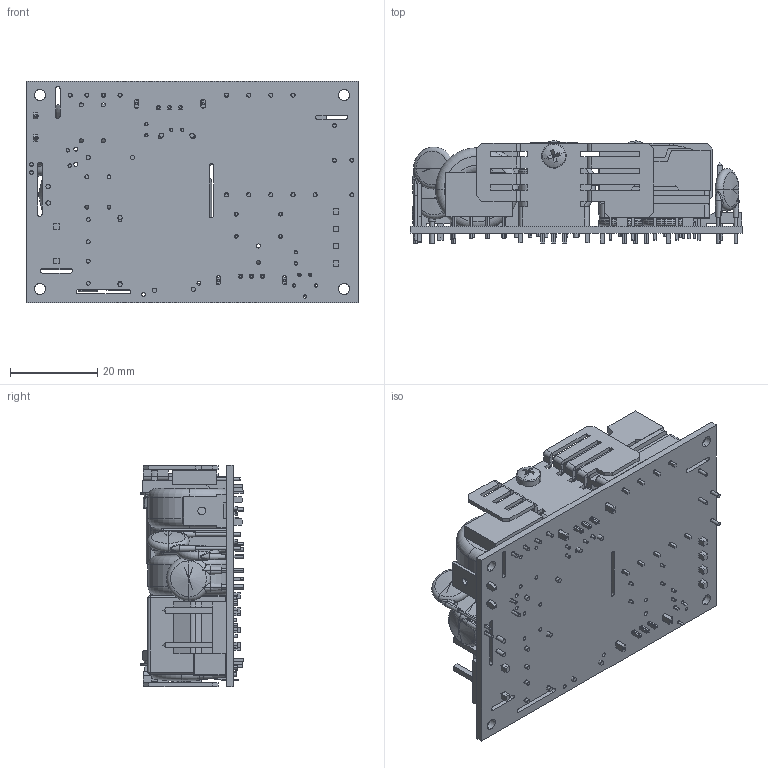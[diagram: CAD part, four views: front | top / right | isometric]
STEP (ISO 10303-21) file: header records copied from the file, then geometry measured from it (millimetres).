
FILE_DESCRIPTION (( 'STEP AP214' ), '1' );
FILE_NAME ('ECS45 12V-48V.STEP', '2010-06-28T23:06:48', ( 'ALL' ), ( 'XP Power' ), 'SwSTEP 2.0', 'SolidWorks 2010', '' );
FILE_SCHEMA (( 'AUTOMOTIVE_DESIGN' ));
Length unit declared in the file: inch
Products named in the file (32): Pot_TOCOS_G4C_TA; 10008835A0 (Bobbin_EFD25_10P); Capacitor Elec_05mm D_13mm H; Inductor Toroid_19.0mm OD_10mm Width; Capacitor Film_13x06mm_10 LS_15mm; Mov_0.350 D_A1_0.300" C; Capacitor Film_18x07mm_15 LS_18mm H; Capacitor Elec_10mm D_16mm; Connector QD_.250 Tab; Capacitor Disc_0.300 D_0.350C; 10008329C0; ECS45 12V-48V; 10008831A0 (Heatsink Fet); Assy_HskFet_ECS45_A0; TO220_3P_01; Assy_HskRec_ECS45_A0; SCREW-PPH_M3.0X08; TO220_3P_FULL_01; Conn_MLX_KK156_Hdr_03P; Nut_Hex Machine (Metric)_Nut H,M3 ; Washer_Split Lock_4_reg; Washer Flat (Metric)_M3 (.5 MM THICK); Fuse Mini Rect_01; Conn_MLX_KK156_Hdr_04P; Capacitor Elec_16mm D_H2_32mm; ECM-RECTIFIER; Capacitor Disc_0.550 D_0.350" C; Capacitor Elec_06mm D_15mm; Inductor Toroid_8.0mm OD_3.5mm Width
Assembly tree (40 placements, depth 3):
  ECS45 12V-48V
    Pot_TOCOS_G4C_TA
    Capacitor Elec_05mm D_13mm H  x2
    Capacitor Elec_10mm D_16mm  x2
    Mov_0.350 D_A1_0.300" C
    Capacitor Elec_06mm D_15mm
    Capacitor Disc_0.300 D_0.350C
    Inductor Toroid_19.0mm OD_10mm Width  x2
    Capacitor Film_18x07mm_15 LS_18mm H
    ECM-RECTIFIER
    Inductor Toroid_8.0mm OD_3.5mm Width
    Fuse Mini Rect_01  x2
    Capacitor Disc_0.300 D_0.350C
    Capacitor Disc_0.550 D_0.350" C
    10008329C0
    Capacitor Film_13x06mm_10 LS_15mm
    Conn_MLX_KK156_Hdr_04P
    Assy_HskRec_ECS45_A0
      SCREW-PPH_M3.0X08
      10008831A0 (Heatsink Fet)
      TO220_3P_01
      Nut_Hex Machine (Metric)_Nut H,M3 
      Washer_Split Lock_4_reg
      Washer Flat (Metric)_M3 (.5 MM THICK)
    Capacitor Disc_0.300 D_0.350C
    10008835A0 (Bobbin_EFD25_10P)
    Connector QD_.250 Tab
    Assy_HskFet_ECS45_A0
      Washer_Split Lock_4_reg
      TO220_3P_FULL_01
      SCREW-PPH_M3.0X08
      10008831A0 (Heatsink Fet)
      Nut_Hex Machine (Metric)_Nut H,M3 
      Washer Flat (Metric)_M3 (.5 MM THICK)
    Conn_MLX_KK156_Hdr_03P
    Capacitor Elec_16mm D_H2_32mm
    Capacitor Disc_0.300 D_0.350C
Bounding box: 76.2 x 23.5 x 50.8 mm (x, y, z)
Volume: 37245.7 mm3; surface area: 35187.3 mm2
Topology: 41 solids, 52 shells, 1811 faces, 4310 edges, 2632 vertices
Faces by surface type: plane 986, cylinder 545, torus 118, cone 114, sphere 28, bspline 20
Entity records: 56289 total; most frequent: CARTESIAN_POINT 14161, DIRECTION 7423, ORIENTED_EDGE 6918, EDGE_CURVE 3459, AXIS2_PLACEMENT_3D 2631, VERTEX_POINT 2179, LINE 2161, VECTOR 2161
